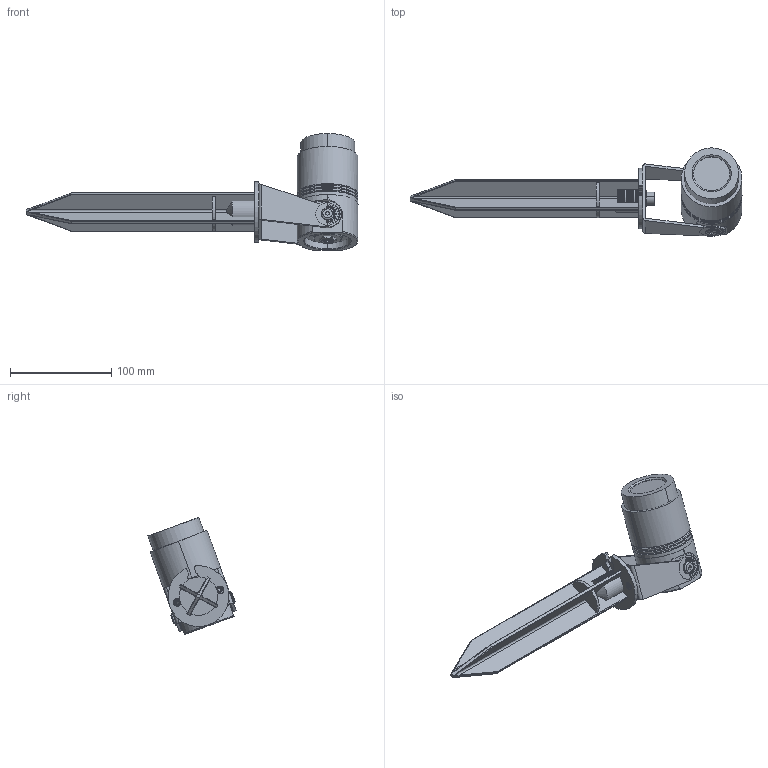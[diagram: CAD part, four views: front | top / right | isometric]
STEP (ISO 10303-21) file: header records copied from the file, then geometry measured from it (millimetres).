
FILE_DESCRIPTION((''),'2;1');
FILE_NAME('3AD__ASM','2024-12-13T',('C028'),(''),'CREO PARAMETRIC BY PTC INC, 2014190','CREO PARAMETRIC BY PTC INC, 2014190','');
FILE_SCHEMA(('CONFIG_CONTROL_DESIGN'));
Length unit declared in the file: millimetre
Products named in the file (38): B3AB_60__O______L_11_1_9; B3AB_60__U___10_1_1; B3AB_60_________L_10_1_1; B71-TJ_10_1_1; B71-TJT_10_1_2; B71_ASM_10_ASM_1_ASM_1_ASM; B3AB_60__O_________B___N_10_1_1; 60-XKM_ASM_10_ASM_1_ASM_1_ASM; TJDQ_4_1_1; OXQ_4_1_1; HG-O_4_1_1; DZ_4_1_1; B3BB_1_1_1_2_3_3_1_1; SCREW-M12_1_18_2_1_1; XINGUIJIAO_14_2_1_1; GUIJIAOSAI-005_8_2_1_1; LUOMUZUJIAN_ASM_14_ASM_2_ASM_1__ASM; M14__ASM_2_ASM_1_ASM_1_ASM; 2FU-MZ_2_1_1; 3AD_HOUGAI-0618_5_1; 3AD-CHIKUAI_4_1; 3AD-ZHIJIA-0731_9_1; 3AD-KDP-01_2_1; DB-M6-8_2_1; B3AB_60____A_____20_ASM_37_ASM__ASM; 3AD_ASM_6_ASM_2_ASM; 16A_19_1_2; M5_17_1_1; M12_16_1_1; 16_ASM_16_ASM_1_ASM_1_ASM; 18_ASM_ASM_1_ASM_1_ASM; 18C__ASM_1_ASM; M8-16_1; M8-1_1; 3AC_ASM_ASM_4_ASM; 3AC__ASM; 3AD_ASM_ASM_2_ASM; 3AD__ASM
Assembly tree (40 placements, depth 8):
  3AD__ASM
    3AD_ASM_ASM_2_ASM
      3AD_ASM_6_ASM_2_ASM
        B3AB_60____A_____20_ASM_37_ASM__ASM
          B3AB_60__O______L_11_1_9
          B3AB_60__U___10_1_1
          B3AB_60_________L_10_1_1
          B71_ASM_10_ASM_1_ASM_1_ASM
            B71-TJ_10_1_1
            B71-TJT_10_1_2
          60-XKM_ASM_10_ASM_1_ASM_1_ASM
            B3AB_60__O_________B___N_10_1_1
          TJDQ_4_1_1
          OXQ_4_1_1
          HG-O_4_1_1
          DZ_4_1_1
          B3BB_1_1_1_2_3_3_1_1
          M14__ASM_2_ASM_1_ASM_1_ASM
            LUOMUZUJIAN_ASM_14_ASM_2_ASM_1__ASM
              SCREW-M12_1_18_2_1_1
              XINGUIJIAO_14_2_1_1
              GUIJIAOSAI-005_8_2_1_1
          2FU-MZ_2_1_1
          3AD_HOUGAI-0618_5_1
          3AD-CHIKUAI_4_1  x2
          3AD-ZHIJIA-0731_9_1
          3AD-KDP-01_2_1
          DB-M6-8_2_1  x2
      3AC__ASM
        3AC_ASM_ASM_4_ASM
          18C__ASM_1_ASM
            18_ASM_ASM_1_ASM_1_ASM
              16_ASM_16_ASM_1_ASM_1_ASM
                16A_19_1_2
                M5_17_1_1  x2
                M12_16_1_1
          M8-16_1
          M8-1_1
Bounding box: 328 x 87.08 x 115.57 mm (x, y, z)
Volume: 258769.7 mm3; surface area: 153279.8 mm2
Topology: 28 solids, 28 shells, 2435 faces, 6716 edges, 4433 vertices
Faces by surface type: plane 1123, cylinder 717, extrusion 284, cone 169, torus 64, bspline 42, sphere 36
Entity records: 75430 total; most frequent: CARTESIAN_POINT 19614, ORIENTED_EDGE 11766, DIRECTION 11285, EDGE_CURVE 5883, AXIS2_PLACEMENT_3D 4022, VERTEX_POINT 3907, VECTOR 3241, LINE 2957
